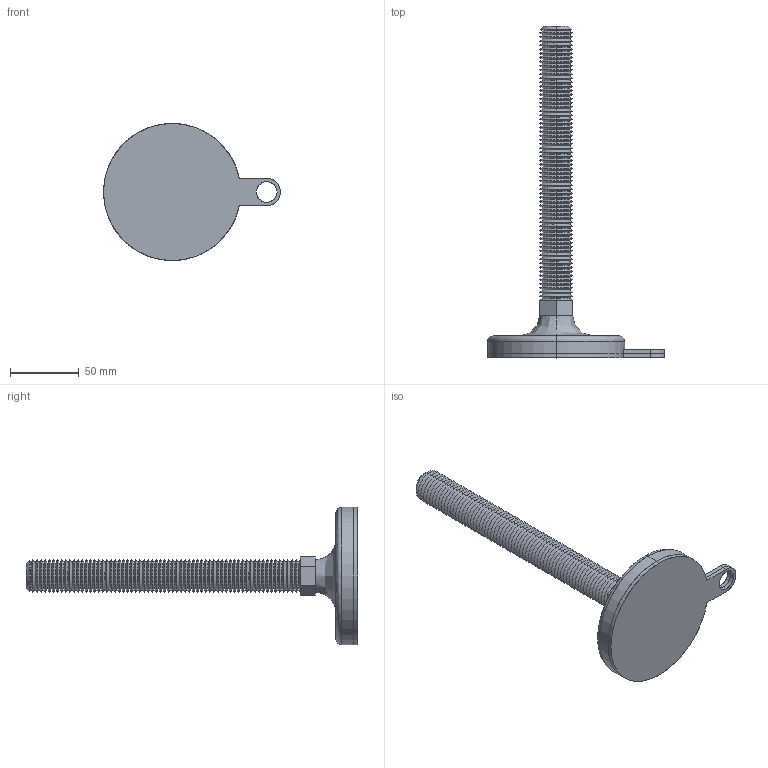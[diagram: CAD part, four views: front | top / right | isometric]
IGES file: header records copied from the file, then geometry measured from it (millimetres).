
Start section: SolidWorks IGES file using analytic representation for surfaces
Global section: file name: C:\Users\liam_\OneDrive\Documents\WORK\Work for WixRoyd\Job Files\J-00026 - Matt Davis CAD - 20191124\04. CAD Drawings\Wixroyd20191124\34704_v2\34704_v2_20191128_IGES\34704.W2406.igs; native system: SolidWorks 2017; preprocessor: SolidWorks 2017; author: liam_; date: 191128.203030; units: millimetre
Bounding box: 129 x 242 x 100 mm (x, y, z)
Surface area: 66295.8 mm2 (no closed solid volume)
Topology: 0 solids, 0 shells, 309 faces, 1868 edges, 1868 vertices
Faces by surface type: revolution 277, bspline 32
